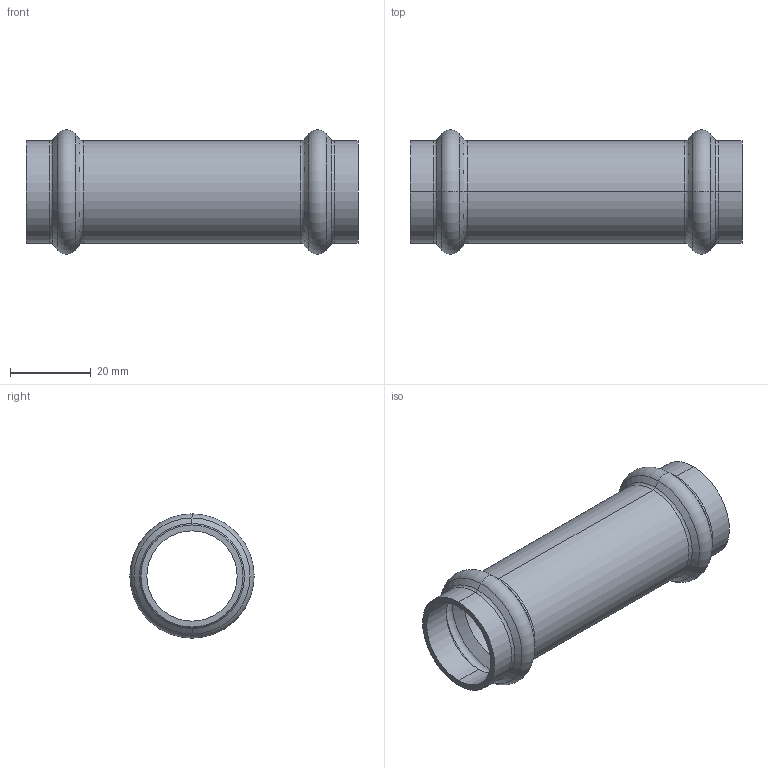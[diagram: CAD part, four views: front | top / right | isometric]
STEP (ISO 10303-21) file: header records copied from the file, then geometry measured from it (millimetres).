
FILE_DESCRIPTION (( 'STEP AP203' ), '1' );
FILE_NAME ('SP5275 22.STEP', '2017-04-24T09:22:37', ( '' ), ( '' ), 'SwSTEP 2.0', 'SolidWorks 2016', '' );
FILE_SCHEMA (( 'CONFIG_CONTROL_DESIGN' ));
Length unit declared in the file: millimetre
Products named in the file (1): SP5275 22
Bounding box: 82 x 30.7 x 30.7 mm (x, y, z)
Volume: 9507 mm3; surface area: 13508.6 mm2
Topology: 1 solids, 1 shells, 46 faces, 92 edges, 48 vertices
Faces by surface type: torus 16, cone 16, cylinder 12, plane 2
Entity records: 1261 total; most frequent: DIRECTION 250, CARTESIAN_POINT 187, ORIENTED_EDGE 184, AXIS2_PLACEMENT_3D 111, EDGE_CURVE 92, CIRCLE 64, VERTEX_POINT 48, EDGE_LOOP 48
